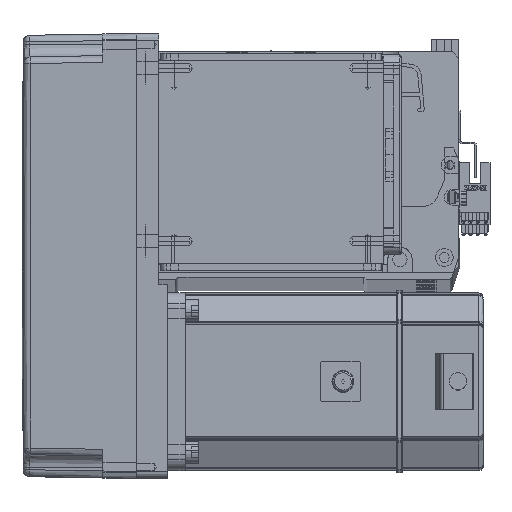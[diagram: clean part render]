
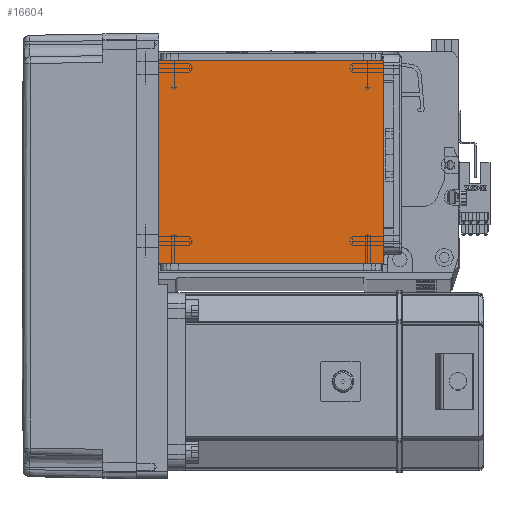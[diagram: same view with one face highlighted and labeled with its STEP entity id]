
A CAD part, top view. The second image highlights one B-rep face of the part: STEP entity #16604.
In plain terms, the highlighted planar face has unit normal (0, 0, 1).
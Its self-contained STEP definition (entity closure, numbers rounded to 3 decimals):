
#1283 = LINE ( 'NONE', #42154, #58322 ) ;
#2648 = EDGE_CURVE ( 'NONE', #38010, #34560, #9685, .T. ) ;
#4052 = DIRECTION ( 'NONE',  ( 0., 0., 1. ) ) ;
#4714 = EDGE_CURVE ( 'NONE', #38010, #58989, #44563, .T. ) ;
#6467 = CARTESIAN_POINT ( 'NONE',  ( -50.5, 122., 115. ) ) ;
#8849 = CARTESIAN_POINT ( 'NONE',  ( 0., 0., 115. ) ) ;
#9261 = EDGE_LOOP ( 'NONE', ( #44374, #43660, #53491, #14200 ) ) ;
#9685 = LINE ( 'NONE', #6467, #43936 ) ;
#11227 = DIRECTION ( 'NONE',  ( 0., -1., 0. ) ) ;
#14200 = ORIENTED_EDGE ( 'NONE', *, *, #41929, .T. ) ;
#16604 = ADVANCED_FACE ( 'NONE', ( #59581 ), #54199, .T. ) ;
#21837 = DIRECTION ( 'NONE',  ( 1., 0., 0. ) ) ;
#24095 = CARTESIAN_POINT ( 'NONE',  ( 50.5, 111.5, 115. ) ) ;
#25059 = LINE ( 'NONE', #27044, #37259 ) ;
#25643 = VERTEX_POINT ( 'NONE', #28170 ) ;
#26371 = DIRECTION ( 'NONE',  ( 0., 1., 0. ) ) ;
#27044 = CARTESIAN_POINT ( 'NONE',  ( 50.5, 122., 115. ) ) ;
#27435 = CARTESIAN_POINT ( 'NONE',  ( -70.004, 111.5, 115. ) ) ;
#27851 = EDGE_CURVE ( 'NONE', #25643, #34560, #1283, .T. ) ;
#28170 = CARTESIAN_POINT ( 'NONE',  ( 50.5, 20., 115. ) ) ;
#34560 = VERTEX_POINT ( 'NONE', #47783 ) ;
#36742 = AXIS2_PLACEMENT_3D ( 'NONE', #8849, #4052, #21837 ) ;
#37259 = VECTOR ( 'NONE', #26371, 1000. ) ;
#38010 = VERTEX_POINT ( 'NONE', #65696 ) ;
#38076 = VECTOR ( 'NONE', #53565, 1000. ) ;
#41712 = DIRECTION ( 'NONE',  ( -1., 0., 0. ) ) ;
#41929 = EDGE_CURVE ( 'NONE', #25643, #58989, #25059, .T. ) ;
#42154 = CARTESIAN_POINT ( 'NONE',  ( -70.004, 20., 115. ) ) ;
#43660 = ORIENTED_EDGE ( 'NONE', *, *, #2648, .T. ) ;
#43936 = VECTOR ( 'NONE', #11227, 1000. ) ;
#44374 = ORIENTED_EDGE ( 'NONE', *, *, #4714, .F. ) ;
#44563 = LINE ( 'NONE', #27435, #38076 ) ;
#47783 = CARTESIAN_POINT ( 'NONE',  ( -50.5, 20., 115. ) ) ;
#53491 = ORIENTED_EDGE ( 'NONE', *, *, #27851, .F. ) ;
#53565 = DIRECTION ( 'NONE',  ( 1., 0., 0. ) ) ;
#54199 = PLANE ( 'NONE',  #36742 ) ;
#58322 = VECTOR ( 'NONE', #41712, 1000. ) ;
#58989 = VERTEX_POINT ( 'NONE', #24095 ) ;
#59581 = FACE_OUTER_BOUND ( 'NONE', #9261, .T. ) ;
#65696 = CARTESIAN_POINT ( 'NONE',  ( -50.5, 111.5, 115. ) ) ;
